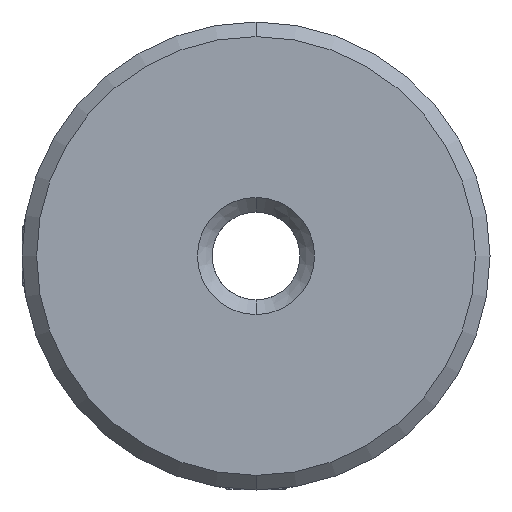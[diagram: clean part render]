
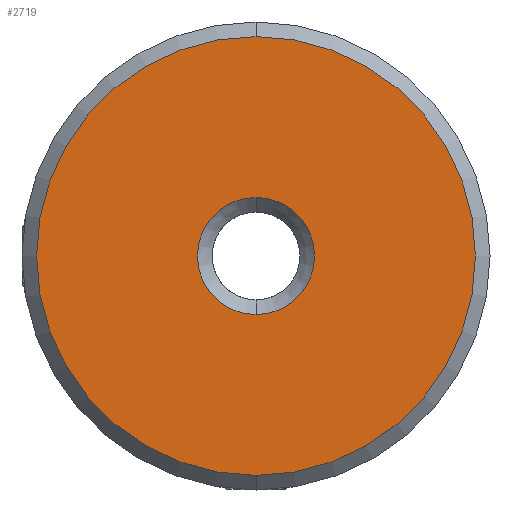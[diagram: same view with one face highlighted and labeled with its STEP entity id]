
A CAD part, front view. The second image highlights one B-rep face of the part: STEP entity #2719.
In plain terms, the highlighted planar face has unit normal (0, -1, 0).
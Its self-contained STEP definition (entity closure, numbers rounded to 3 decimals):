
#50 = AXIS2_PLACEMENT_3D ( 'NONE', #2562, #3091, #2829 ) ;
#280 = CARTESIAN_POINT ( 'NONE',  ( -10.188, -12.277, 2.046 ) ) ;
#301 = CIRCLE ( 'NONE', #1589, 2. ) ;
#347 = CARTESIAN_POINT ( 'NONE',  ( -10.188, -12.277, 7.546 ) ) ;
#559 = VERTEX_POINT ( 'NONE', #280 ) ;
#591 = FACE_OUTER_BOUND ( 'NONE', #1792, .T. ) ;
#609 = CIRCLE ( 'NONE', #717, 2. ) ;
#665 = ORIENTED_EDGE ( 'NONE', *, *, #1598, .T. ) ;
#717 = AXIS2_PLACEMENT_3D ( 'NONE', #3598, #2579, #3380 ) ;
#853 = DIRECTION ( 'NONE',  ( 0., 0., 1. ) ) ;
#1152 = CIRCLE ( 'NONE', #3306, 7.5 ) ;
#1154 = ORIENTED_EDGE ( 'NONE', *, *, #2656, .T. ) ;
#1155 = VERTEX_POINT ( 'NONE', #1909 ) ;
#1358 = AXIS2_PLACEMENT_3D ( 'NONE', #1951, #2537, #1390 ) ;
#1390 = DIRECTION ( 'NONE',  ( 0., 0., 1. ) ) ;
#1580 = DIRECTION ( 'NONE',  ( 0., 0., 1. ) ) ;
#1589 = AXIS2_PLACEMENT_3D ( 'NONE', #3110, #3386, #853 ) ;
#1598 = EDGE_CURVE ( 'NONE', #559, #2082, #301, .T. ) ;
#1764 = CARTESIAN_POINT ( 'NONE',  ( -10.188, -12.277, 0.046 ) ) ;
#1791 = CIRCLE ( 'NONE', #50, 7.5 ) ;
#1792 = EDGE_LOOP ( 'NONE', ( #3112, #2008 ) ) ;
#1909 = CARTESIAN_POINT ( 'NONE',  ( -10.188, -12.277, -7.454 ) ) ;
#1934 = FACE_BOUND ( 'NONE', #3333, .T. ) ;
#1951 = CARTESIAN_POINT ( 'NONE',  ( -10.188, -12.277, 0.046 ) ) ;
#2008 = ORIENTED_EDGE ( 'NONE', *, *, #3233, .T. ) ;
#2082 = VERTEX_POINT ( 'NONE', #2845 ) ;
#2387 = VERTEX_POINT ( 'NONE', #347 ) ;
#2537 = DIRECTION ( 'NONE',  ( 0., 1., 0. ) ) ;
#2562 = CARTESIAN_POINT ( 'NONE',  ( -10.188, -12.277, 0.046 ) ) ;
#2579 = DIRECTION ( 'NONE',  ( 0., 1., 0. ) ) ;
#2656 = EDGE_CURVE ( 'NONE', #2082, #559, #609, .T. ) ;
#2719 = ADVANCED_FACE ( 'NONE', ( #591, #1934 ), #2792, .F. ) ;
#2792 = PLANE ( 'NONE',  #1358 ) ;
#2829 = DIRECTION ( 'NONE',  ( 0., 0., 1. ) ) ;
#2845 = CARTESIAN_POINT ( 'NONE',  ( -10.188, -12.277, -1.954 ) ) ;
#2885 = DIRECTION ( 'NONE',  ( 0., -1., 0. ) ) ;
#3033 = EDGE_CURVE ( 'NONE', #2387, #1155, #1152, .T. ) ;
#3091 = DIRECTION ( 'NONE',  ( 0., -1., 0. ) ) ;
#3110 = CARTESIAN_POINT ( 'NONE',  ( -10.188, -12.277, 0.046 ) ) ;
#3112 = ORIENTED_EDGE ( 'NONE', *, *, #3033, .T. ) ;
#3233 = EDGE_CURVE ( 'NONE', #1155, #2387, #1791, .T. ) ;
#3306 = AXIS2_PLACEMENT_3D ( 'NONE', #1764, #2885, #1580 ) ;
#3333 = EDGE_LOOP ( 'NONE', ( #1154, #665 ) ) ;
#3380 = DIRECTION ( 'NONE',  ( 0., 0., 1. ) ) ;
#3386 = DIRECTION ( 'NONE',  ( 0., 1., 0. ) ) ;
#3598 = CARTESIAN_POINT ( 'NONE',  ( -10.188, -12.277, 0.046 ) ) ;
